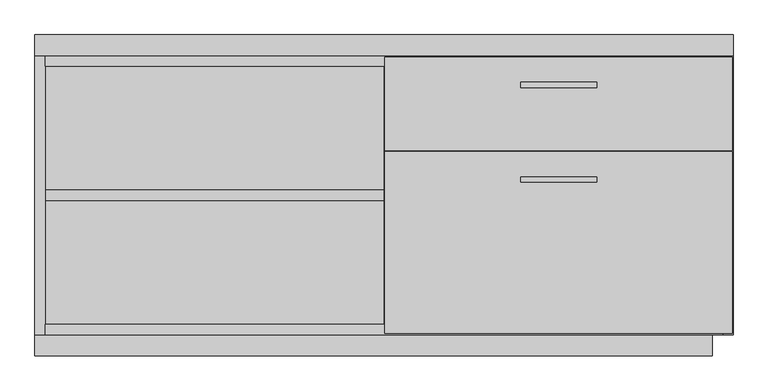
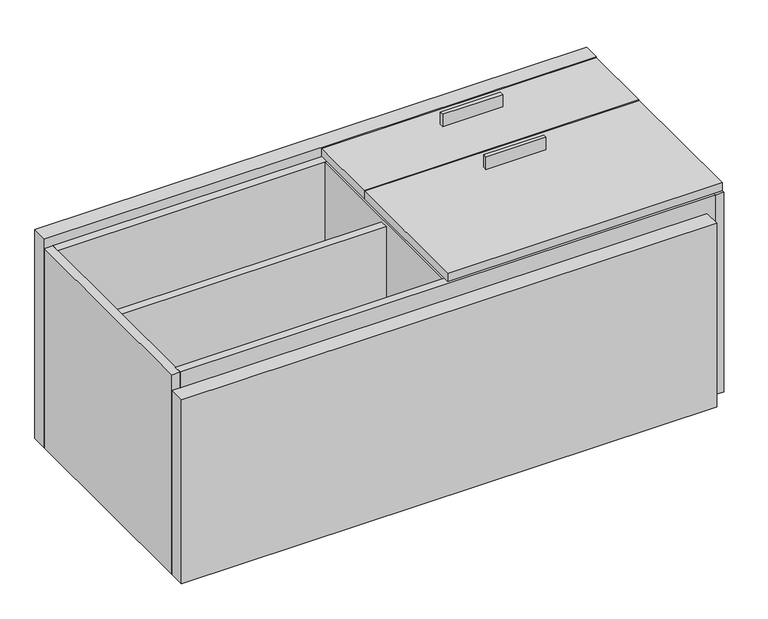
"""IFC4 building model written with IfcOpenShell, lengths in millimetres: proxy geometry, FOUNDATION^CREDENZA 50_LT SHELF BF RT-SOLID ASSEMBLY."""

from ifc_helpers import new_model, si_unit, frame, origin, origin_with_axes, place, context, project, spatial, polyline, outline, extrude, source, transform, mapped, element, save


def generic_models_3ae7f531(model_context):
    return source(origin(), model_context, "Body", "SweptSolid", [
        extrude(outline(polyline([(1021.55625, 315.9125), (883.44375, 315.9125), (883.44375, 325.4375), (1021.55625, 325.4375), (1021.55625, 315.9125)])), frame((0.0, 0.0, 508.0), z_axis=(0.0, 0.0, 1.0), x_axis=(1.0, 0.0, 0.0)), (0.0, 0.0, 1.0), 30.1625),
        extrude(outline(polyline([(1021.55625, 488.15625), (883.44375, 488.15625), (883.44375, 497.68125), (1021.55625, 497.68125), (1021.55625, 488.15625)])), frame((0.0, 0.0, 508.0), z_axis=(0.0, 0.0, 1.0), x_axis=(1.0, 0.0, 0.0)), (0.0, 0.0, 1.0), 30.1625),
        extrude(outline(polyline([(634.20625, 282.575), (19.84375, 282.575), (19.84375, 301.625), (634.20625, 301.625), (634.20625, 282.575)])), frame((0.0, 0.0, 19.05), z_axis=(0.0, 0.0, 1.0), x_axis=(1.0, 0.0, 0.0)), (0.0, 0.0, 1.0), 457.2),
        extrude(outline(polyline([(19.05, 527.05), (19.05, 546.1), (1250.95, 546.1), (1250.95, 527.05), (19.05, 527.05)])), frame((0.0, 0.0, 19.05), z_axis=(0.0, 0.0, 1.0), x_axis=(1.0, 0.0, 0.0)), (0.0, 0.0, 1.0), 466.725),
        extrude(outline(polyline([(1268.4125, 371.475), (1268.4125, 40.48125), (636.5875, 40.48125), (636.5875, 371.475), (1268.4125, 371.475)])), frame((0.0, 0.0, 488.95), z_axis=(0.0, 0.0, 1.0), x_axis=(1.0, 0.0, 0.0)), (0.0, 0.0, 1.0), 19.05),
        extrude(outline(polyline([(1250.95, 57.15), (1250.95, 38.1), (19.05, 38.1), (19.05, 57.15), (1250.95, 57.15)])), frame((0.0, 0.0, 19.05), z_axis=(0.0, 0.0, 1.0), x_axis=(1.0, 0.0, 0.0)), (0.0, 0.0, 1.0), 466.725),
        extrude(outline(polyline([(1250.95, 38.1), (19.05, 38.1), (19.05, 546.1), (1250.95, 546.1), (1250.95, 38.1)])), origin_with_axes(), (0.0, 0.0, 1.0), 19.05),
        extrude(outline(polyline([(1270.0, 38.1), (1250.95, 38.1), (1250.95, 546.1), (1270.0, 546.1), (1270.0, 38.1)])), origin_with_axes(), (0.0, 0.0, 1.0), 485.775),
        extrude(outline(polyline([(1268.4125, 373.85625), (636.5875, 373.85625), (636.5875, 543.71875), (1268.4125, 543.71875), (1268.4125, 373.85625)])), frame((0.0, 0.0, 488.95), z_axis=(0.0, 0.0, 1.0), x_axis=(1.0, 0.0, 0.0)), (0.0, 0.0, 1.0), 19.05),
        extrude(outline(polyline([(0.0, 38.1), (1231.9, 38.1), (1231.9, 0.0), (0.0, 0.0), (0.0, 38.1)])), origin_with_axes(), (0.0, 0.0, 1.0), 447.675),
        extrude(outline(polyline([(1270.0, 546.1), (0.0, 546.1), (0.0, 584.2), (1270.0, 584.2), (1270.0, 546.1)])), origin_with_axes(), (0.0, 0.0, 1.0), 508.0),
        extrude(outline(polyline([(0.0, 546.1), (19.05, 546.1), (19.05, 38.1), (0.0, 38.1), (0.0, 546.1)])), origin_with_axes(), (0.0, 0.0, 1.0), 485.775),
        extrude(outline(polyline([(635.0, 527.05), (654.05, 527.05), (654.05, 57.15), (635.0, 57.15), (635.0, 527.05)])), frame((0.0, 0.0, 19.05), z_axis=(0.0, 0.0, 1.0), x_axis=(1.0, 0.0, 0.0)), (0.0, 0.0, 1.0), 466.725),
    ])


if __name__ == "__main__":
    model = new_model("IFC4")
    model_context = context("Model", 3, world=origin())
    ifc_project = project(units=[si_unit("LENGTHUNIT", "METRE", prefix="MILLI")], contexts=[model_context])
    site = spatial("IfcSite", under=ifc_project)
    building = spatial("IfcBuilding", under=site)
    placement = place(None, origin())
    generic_models_shape = generic_models_3ae7f531(model_context)
    element("IfcBuildingElementProxy", 1, Name="FOUNDATION^CREDENZA 50_LT SHELF BF RT-SOLID ASSEMBLY", ObjectType="FOUNDATION^CREDENZA 50_LT SHELF BF RT-SOLID ASSEMBLY", at=placement, inside=building, context=model_context, shape_type="MappedRepresentation", body=[
        mapped(generic_models_shape, transform((0.0, 0.0, 0.0), x_axis=(1.0, 0.0, 0.0), y_axis=(0.0, 1.0, 0.0), z_axis=(0.0, 0.0, 1.0))),
    ])
    save(model, "model.ifc")
